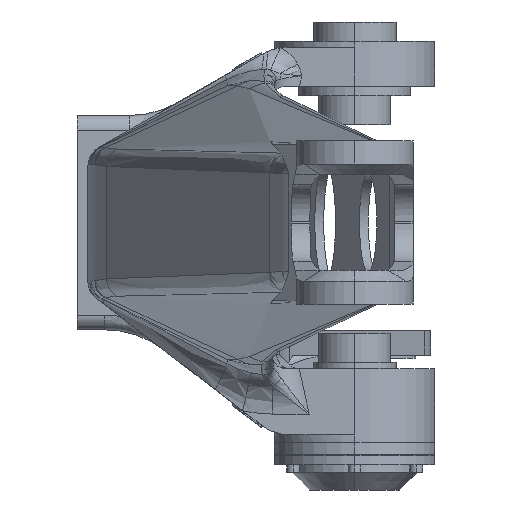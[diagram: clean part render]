
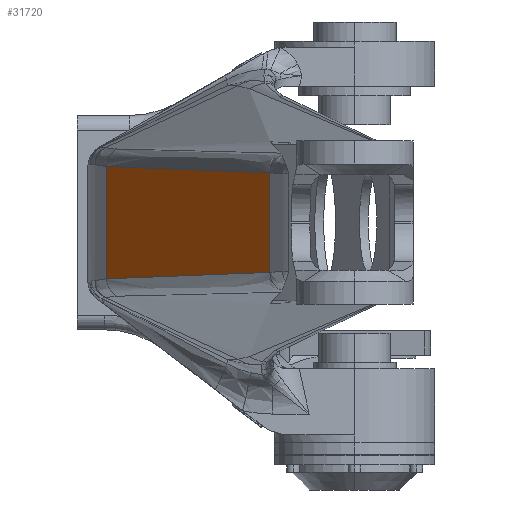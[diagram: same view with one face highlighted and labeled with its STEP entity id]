
A CAD part, left-side view. The second image highlights one B-rep face of the part: STEP entity #31720.
In plain terms, the highlighted planar face has unit normal (-0.201, 0.98, 0).
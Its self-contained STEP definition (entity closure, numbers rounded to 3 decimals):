
#2414 = DIRECTION ( 'NONE',  ( 0.98, 0.201, 0. ) ) ;
#2415 = DIRECTION ( 'NONE',  ( 0.201, -0.98, 0. ) ) ;
#2416 = CARTESIAN_POINT ( 'NONE',  ( -1110., 70.972, 70. ) ) ;
#2417 = AXIS2_PLACEMENT_3D ( 'NONE', #2416, #2415, #2414 ) ;
#2418 = PLANE ( 'NONE',  #2417 ) ;
#2419 = FACE_OUTER_BOUND ( 'NONE', #31721, .T. ) ;
#2501 = CARTESIAN_POINT ( 'NONE',  ( -1031.909, 87.026, -51.061 ) ) ;
#2502 = CARTESIAN_POINT ( 'NONE',  ( -964.014, 100.983, -51.898 ) ) ;
#2503 = CARTESIAN_POINT ( 'NONE',  ( -828.222, 128.897, -53.379 ) ) ;
#2504 = CARTESIAN_POINT ( 'NONE',  ( -692.427, 156.813, -54.558 ) ) ;
#2505 = CARTESIAN_POINT ( 'NONE',  ( -488.733, 198.686, -56.151 ) ) ;
#2506 = CARTESIAN_POINT ( 'NONE',  ( -352.936, 226.602, -56.984 ) ) ;
#2507 = CARTESIAN_POINT ( 'NONE',  ( -217.138, 254.518, -57.682 ) ) ;
#2508 = LINE ( 'NONE', #2554, #2553 ) ;
#2509 = CARTESIAN_POINT ( 'NONE',  ( -1031.909, 87.026, -51.061 ) ) ;
#2510 = B_SPLINE_CURVE_WITH_KNOTS ( 'NONE', 3,
 ( #2507, #2506, #2505, #2504, #2503, #2502, #2501 ),
 .UNSPECIFIED., .F., .F.,
 ( 4, 2, 1, 4 ),
 ( 0., 0.416, 0.624, 0.832 ),
 .UNSPECIFIED. ) ;
#2541 = CARTESIAN_POINT ( 'NONE',  ( -217.138, 254.518, 57.682 ) ) ;
#2542 = CARTESIAN_POINT ( 'NONE',  ( -352.936, 226.602, 56.984 ) ) ;
#2543 = CARTESIAN_POINT ( 'NONE',  ( -488.733, 198.686, 56.151 ) ) ;
#2544 = CARTESIAN_POINT ( 'NONE',  ( -692.427, 156.813, 54.558 ) ) ;
#2545 = CARTESIAN_POINT ( 'NONE',  ( -828.222, 128.897, 53.379 ) ) ;
#2546 = CARTESIAN_POINT ( 'NONE',  ( -964.014, 100.983, 51.898 ) ) ;
#2547 = CARTESIAN_POINT ( 'NONE',  ( -1031.909, 87.026, 51.061 ) ) ;
#2549 = B_SPLINE_CURVE_WITH_KNOTS ( 'NONE', 3,
 ( #2547, #2546, #2545, #2544, #2543, #2542, #2541 ),
 .UNSPECIFIED., .F., .F.,
 ( 4, 1, 2, 4 ),
 ( 0., 0.208, 0.416, 0.832 ),
 .UNSPECIFIED. ) ;
#2551 = CARTESIAN_POINT ( 'NONE',  ( -1031.909, 87.026, 51.061 ) ) ;
#2552 = DIRECTION ( 'NONE',  ( 0., 0., 1. ) ) ;
#2553 = VECTOR ( 'NONE', #2552, 1000. ) ;
#2554 = CARTESIAN_POINT ( 'NONE',  ( -1031.909, 87.026, 70. ) ) ;
#26630 = CARTESIAN_POINT ( 'NONE',  ( -217.138, 254.518, 57.682 ) ) ;
#26631 = DIRECTION ( 'NONE',  ( 0., 0., -1. ) ) ;
#26632 = VECTOR ( 'NONE', #26631, 1000. ) ;
#26633 = CARTESIAN_POINT ( 'NONE',  ( -217.138, 254.518, -69.362 ) ) ;
#26638 = CARTESIAN_POINT ( 'NONE',  ( -217.138, 254.518, -57.682 ) ) ;
#26640 = LINE ( 'NONE', #26633, #26632 ) ;
#29981 = VERTEX_POINT ( 'NONE', #26638 ) ;
#29983 = EDGE_CURVE ( 'NONE', #29984, #29981, #26640, .T. ) ;
#29984 = VERTEX_POINT ( 'NONE', #26630 ) ;
#31720 = ADVANCED_FACE ( 'NONE', ( #2419 ), #2418, .F. ) ;
#31721 = EDGE_LOOP ( 'NONE', ( #31776, #31777, #31780, #31783 ) ) ;
#31776 = ORIENTED_EDGE ( 'NONE', *, *, #29983, .T. ) ;
#31777 = ORIENTED_EDGE ( 'NONE', *, *, #31778, .T. ) ;
#31778 = EDGE_CURVE ( 'NONE', #29981, #31779, #2510, .T. ) ;
#31779 = VERTEX_POINT ( 'NONE', #2509 ) ;
#31780 = ORIENTED_EDGE ( 'NONE', *, *, #31781, .T. ) ;
#31781 = EDGE_CURVE ( 'NONE', #31779, #31782, #2508, .T. ) ;
#31782 = VERTEX_POINT ( 'NONE', #2551 ) ;
#31783 = ORIENTED_EDGE ( 'NONE', *, *, #31784, .T. ) ;
#31784 = EDGE_CURVE ( 'NONE', #31782, #29984, #2549, .T. ) ;
